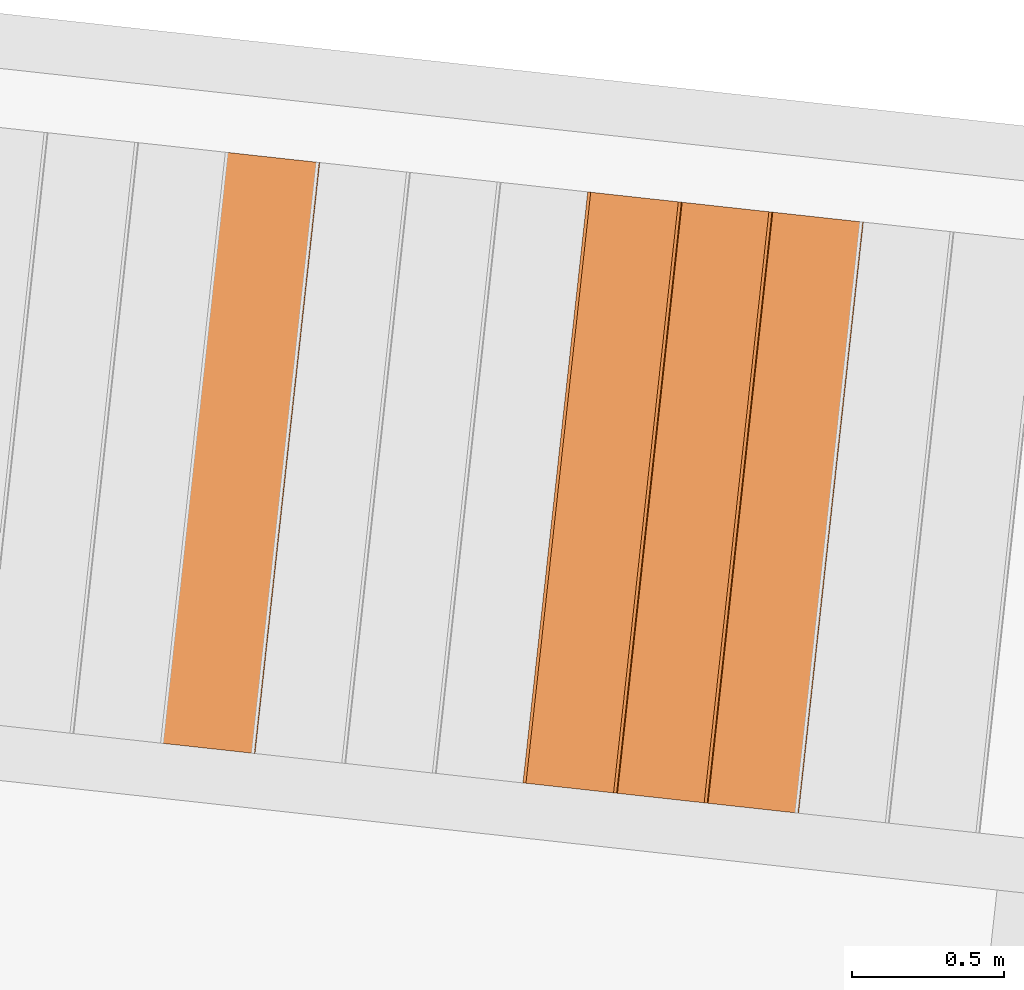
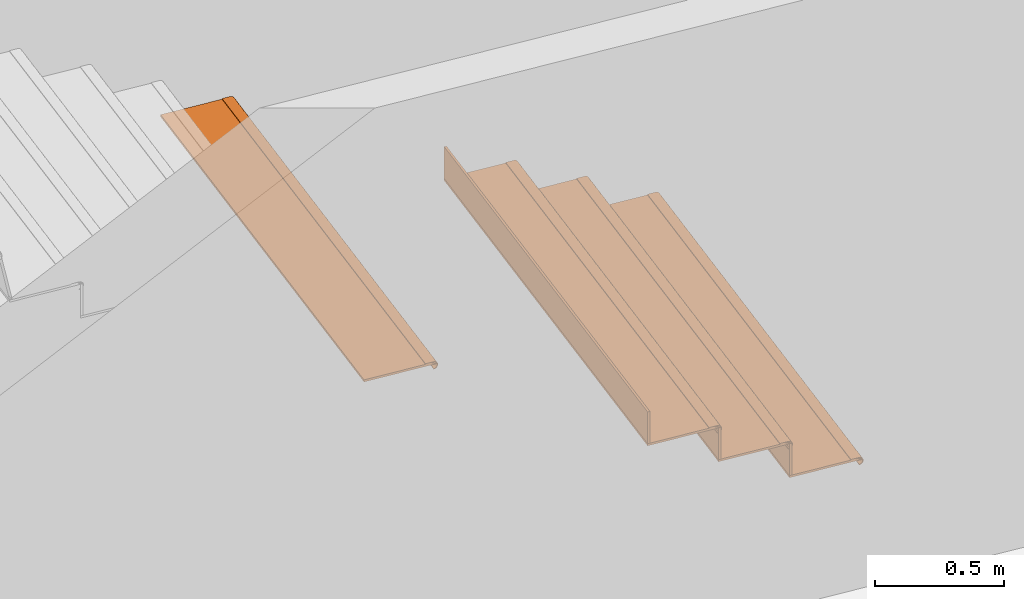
# One storey, part 77 of 79: 7 proxies, 1 element without a shape of its own.
"""IFC2X3 building model written with IfcOpenShell, lengths in metres."""

from ifc_helpers import new_model, entity, si_unit, converted_unit, derived_unit, money_unit, direction, frame, origin_with_axes, place, context, subcontext, project, spatial, faceted_brep, material, type_object, element, aggregate, save


model = new_model("IFC2X3")

# Units and contexts
model_context = context("Model", 3, precision=1e-05, world=origin_with_axes(), true_north=direction((0.0, 1.0)))
body_context = subcontext(model_context, "Body", "Model", "MODEL_VIEW")
ifc_project = project(units=[si_unit("LENGTHUNIT", "METRE"), si_unit("AREAUNIT", "SQUARE_METRE"), si_unit("VOLUMEUNIT", "CUBIC_METRE"), converted_unit("PLANEANGLEUNIT", "DEGREE", entity("IfcPlaneAngleMeasure", 0.0174532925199), si_unit("PLANEANGLEUNIT", "RADIAN"), dimensions=[0, 0, 0, 0, 0, 0, 0]), money_unit("CHF"), converted_unit("TIMEUNIT", "Year", entity("IfcTimeMeasure", 31556926.0), si_unit("TIMEUNIT", "SECOND"), dimensions=[0, 0, 1, 0, 0, 0, 0]), si_unit("MASSUNIT", "GRAM", prefix="KILO"), si_unit("THERMODYNAMICTEMPERATUREUNIT", "DEGREE_CELSIUS"), si_unit("LUMINOUSINTENSITYUNIT", "LUMEN"), si_unit("ENERGYUNIT", "JOULE", prefix="MEGA"), derived_unit("THERMALCONDUCTANCEUNIT", [(si_unit("POWERUNIT", "WATT"), 1), (si_unit("LENGTHUNIT", "METRE"), -1), (si_unit("THERMODYNAMICTEMPERATUREUNIT", "KELVIN"), -1)]), derived_unit("SPECIFICHEATCAPACITYUNIT", [(si_unit("ENERGYUNIT", "JOULE"), 1), (si_unit("MASSUNIT", "GRAM", prefix="KILO"), -1), (si_unit("THERMODYNAMICTEMPERATUREUNIT", "KELVIN"), -1)]), derived_unit("MASSDENSITYUNIT", [(si_unit("MASSUNIT", "GRAM", prefix="KILO"), 1), (si_unit("VOLUMEUNIT", "CUBIC_METRE"), -1)])], contexts=[model_context])

# Site, building, storey
site_placement = place(None, frame((0.0, 0.0, 0.0), z_axis=(0.0, 0.0, 1.0), x_axis=(-0.177771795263, -0.984071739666, 0.0)))
site = spatial("IfcSite", under=ifc_project, at=site_placement, Name="Site", CompositionType="ELEMENT")
building_placement = place(site_placement, origin_with_axes())
building = spatial("IfcBuilding", under=site, at=building_placement, Name="Bâtiment", CompositionType="ELEMENT")
storey_placement = place(building_placement, origin_with_axes())
storey = spatial("IfcBuildingStorey", under=building, at=storey_placement, Name="RDC", CompositionType="ELEMENT", Elevation=0.0)

# Proxies
building_element_proxy_type_1 = type_object("IfcBuildingElementProxyType", Name="Type d'escalier", PredefinedType="NOTDEFINED")
proxy_1_placement = place(storey_placement, origin_with_axes())
proxy_1 = element("IfcBuildingElementProxy", 1, at=proxy_1_placement, inside=storey, type_object=building_element_proxy_type_1, Name="ESC-001")
ifc_material = material(Name="Bois - Massif 01")
building_element_proxy_type_2 = type_object("IfcBuildingElementProxyType", Name="IfcBuildingElementProxy", PredefinedType="NOTDEFINED")
proxy_2_placement = place(proxy_1_placement, frame((98.7238844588, -151.896934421, 0.63), z_axis=(0.0, 0.0, 1.0), x_axis=(0.997579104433, 0.0695408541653, 0.0)))
proxy_2 = element("IfcBuildingElementProxy", 2, at=proxy_2_placement, type_object=building_element_proxy_type_2, material=ifc_material, Name="C-MARCHE-004", context=body_context, shape_type="Brep", body=[
    faceted_brep([(1.00141510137, 0.0, 0.0), (-0.955838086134, 0.0, 0.0), (-0.955838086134, -0.00999999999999, 0.0), (1.00141232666, -0.00999999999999, 0.0), (1.00141510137, 0.0, -0.15), (-0.955838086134, 0.0, -0.15), (-0.955838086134, -0.00999999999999, -0.15), (1.00141232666, -0.00999999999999, -0.15)], [[[0, 1, 2, 3]], [[4, 5, 1, 0]], [[1, 5, 6, 2]], [[3, 2, 6, 7]], [[0, 3, 7, 4]], [[7, 6, 5, 4]]]),
])
proxy_3_placement = place(proxy_1_placement, frame((98.7447467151, -152.196208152, 0.79), z_axis=(0.0, 0.0, 1.0), x_axis=(0.997579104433, 0.0695408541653, 0.0)))
proxy_3 = element("IfcBuildingElementProxy", 3, at=proxy_3_placement, type_object=building_element_proxy_type_2, material=ifc_material, Name="C-MARCHE-005", context=body_context, shape_type="Brep", body=[
    faceted_brep([(1.00133186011, 0.0, 0.0), (-0.955838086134, 0.0, 0.0), (-0.955838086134, -0.01, 0.0), (1.0013290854, -0.00999999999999, 0.0), (1.00133186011, 0.0, -0.15), (-0.955838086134, 0.0, -0.15), (-0.955838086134, -0.01, -0.15), (1.0013290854, -0.00999999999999, -0.15)], [[[0, 1, 2, 3]], [[4, 5, 1, 0]], [[1, 5, 6, 2]], [[3, 2, 6, 7]], [[0, 3, 7, 4]], [[7, 6, 5, 4]]]),
])
proxy_4_placement = place(proxy_1_placement, frame((98.7656089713, -152.495481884, 0.95), z_axis=(0.0, 0.0, 1.0), x_axis=(0.997579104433, 0.0695408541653, 0.0)))
proxy_4 = element("IfcBuildingElementProxy", 4, at=proxy_4_placement, type_object=building_element_proxy_type_2, material=ifc_material, Name="C-MARCHE-006", context=body_context, shape_type="Brep", body=[
    faceted_brep([(1.00124861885, 0.0, 0.0), (-0.955838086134, 0.0, 0.0), (-0.955838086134, -0.00999999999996, 0.0), (1.00124584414, -0.00999999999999, 0.0), (1.00124861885, 0.0, -0.15), (-0.955838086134, 0.0, -0.15), (-0.955838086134, -0.00999999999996, -0.15), (1.00124584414, -0.00999999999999, -0.15)], [[[0, 1, 2, 3]], [[4, 5, 1, 0]], [[1, 5, 6, 2]], [[3, 2, 6, 7]], [[0, 3, 7, 4]], [[7, 6, 5, 4]]]),
])
proxy_5_placement = place(proxy_1_placement, frame((98.7030222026, -151.59766069, 0.48), z_axis=(0.0, 0.0, 1.0), x_axis=(0.997579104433, 0.0695408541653, 0.0)))
proxy_5 = element("IfcBuildingElementProxy", 5, at=proxy_5_placement, type_object=building_element_proxy_type_2, material=ifc_material, Name="MARCHE-003", context=body_context, shape_type="Brep", body=[
    faceted_brep([(1.00149492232, -0.012326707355, -0.00589109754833), (1.00149418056, -0.015, -0.00401923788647), (1.00149286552, -0.0197393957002, -0.00180922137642), (1.00149146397, -0.02479055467, -0.00045576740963), (1.0014900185, -0.03, 0.0), (1.00141232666, -0.309999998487, 0.0), (1.00141232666, -0.309999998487, -0.01), (1.00149834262, 0.0, -0.01), (-0.955838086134, -0.012326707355, -0.00589109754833), (-0.955838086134, -0.015, -0.00401923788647), (-0.955838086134, -0.0197393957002, -0.00180922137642), (-0.955838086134, -0.02479055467, -0.00045576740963), (-0.955838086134, -0.03, 0.0), (-0.955838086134, -0.309999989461, 0.0), (-0.955838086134, -0.309999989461, -0.01), (-0.955838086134, 0.0, -0.01)], [[[0, 1, 2, 3, 4, 5, 6, 7]], [[0, 8, 9, 1]], [[1, 9, 10, 2]], [[2, 10, 11, 3]], [[3, 11, 12, 4]], [[5, 4, 12, 13]], [[13, 14, 6, 5]], [[7, 6, 14, 15]], [[7, 15, 8, 0]], [[12, 11, 10, 9, 8, 15, 14, 13]]]),
    faceted_brep([(-0.955838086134, -0.05, 0.0), (1.00149834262, -0.05, 0.0), (1.00149834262, -0.05, 0.003), (-0.955838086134, -0.05, 0.003), (-0.955838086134, -0.015, 0.0), (1.00149834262, -0.015, 0.0), (1.00149834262, -0.012395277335, -0.00022788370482), (1.00149834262, -0.00986969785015, -0.00090461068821), (1.00149834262, -0.00749999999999, -0.00200961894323), (1.00149834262, -0.0053581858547, -0.00350933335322), (1.00149834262, -0.00350933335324, -0.0053581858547), (1.00149834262, -0.00200961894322, -0.0075), (1.00149834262, -0.000904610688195, -0.00986969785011), (1.00149834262, -0.000227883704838, -0.012395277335), (1.00149834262, 0.0, -0.015), (1.00149834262, -0.000227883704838, -0.017604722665), (1.00149834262, -0.000904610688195, -0.0201303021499), (1.00149834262, -0.00200961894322, -0.0225), (1.00149834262, -0.00350933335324, -0.0246418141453), (1.00149834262, -0.0053581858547, -0.0264906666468), (1.00149834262, -0.00749999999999, -0.0279903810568), (1.00149834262, -0.00986969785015, -0.0290953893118), (1.00149834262, -0.012395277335, -0.0297721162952), (1.00149834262, -0.015, -0.03), (1.00149834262, -0.015, -0.033), (1.00149834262, -0.0118743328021, -0.0327265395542), (1.00149834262, -0.00884363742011, -0.0319144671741), (1.00149834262, -0.006, -0.0305884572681), (1.00149834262, -0.00342982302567, -0.0287887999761), (1.00149834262, -0.0012112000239, -0.0265701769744), (1.00149834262, 0.000588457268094, -0.024), (1.00149834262, 0.00191446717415, -0.0211563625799), (1.00149834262, 0.0027265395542, -0.018125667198), (1.00149834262, 0.00299999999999, -0.015), (1.00149834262, 0.0027265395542, -0.011874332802), (1.00149834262, 0.00191446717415, -0.00884363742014), (1.00149834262, 0.000588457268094, -0.006), (1.00149834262, -0.0012112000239, -0.00342982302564), (1.00149834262, -0.00342982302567, -0.00121120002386), (1.00149834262, -0.006, 0.00058845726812), (1.00149834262, -0.00884363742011, 0.00191446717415), (1.00149834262, -0.0118743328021, 0.00272653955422), (1.00149834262, -0.015, 0.003), (-0.955838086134, -0.015, 0.003), (-0.955838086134, -0.011874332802, 0.00272653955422), (-0.955838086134, -0.00884363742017, 0.00191446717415), (-0.955838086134, -0.00599999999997, 0.00058845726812), (-0.955838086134, -0.00342982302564, -0.00121120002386), (-0.955838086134, -0.00121120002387, -0.00342982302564), (-0.955838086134, 0.000588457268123, -0.006), (-0.955838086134, 0.00191446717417, -0.00884363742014), (-0.955838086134, 0.00272653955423, -0.011874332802), (-0.955838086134, 0.00299999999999, -0.015), (-0.955838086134, 0.00272653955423, -0.018125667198), (-0.955838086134, 0.00191446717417, -0.0211563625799), (-0.955838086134, 0.000588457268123, -0.024), (-0.955838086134, -0.00121120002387, -0.0265701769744), (-0.955838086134, -0.00342982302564, -0.0287887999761), (-0.955838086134, -0.00599999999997, -0.0305884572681), (-0.955838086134, -0.00884363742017, -0.0319144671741), (-0.955838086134, -0.011874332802, -0.0327265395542), (-0.955838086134, -0.015, -0.033), (-0.955838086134, -0.015, -0.03), (-0.955838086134, -0.012395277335, -0.0297721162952), (-0.955838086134, -0.00986969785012, -0.0290953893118), (-0.955838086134, -0.00750000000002, -0.0279903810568), (-0.955838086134, -0.0053581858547, -0.0264906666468), (-0.955838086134, -0.00350933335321, -0.0246418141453), (-0.955838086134, -0.00200961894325, -0.0225), (-0.955838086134, -0.000904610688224, -0.0201303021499), (-0.955838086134, -0.000227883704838, -0.017604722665), (-0.955838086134, 0.0, -0.015), (-0.955838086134, -0.000227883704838, -0.012395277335), (-0.955838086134, -0.000904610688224, -0.00986969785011), (-0.955838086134, -0.00200961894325, -0.0075), (-0.955838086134, -0.00350933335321, -0.0053581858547), (-0.955838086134, -0.0053581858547, -0.00350933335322), (-0.955838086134, -0.00750000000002, -0.00200961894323), (-0.955838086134, -0.00986969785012, -0.00090461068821), (-0.955838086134, -0.012395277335, -0.00022788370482)], [[[0, 1, 2, 3]], [[4, 5, 1, 0]], [[1, 5, 6, 7, 8, 9, 10, 11, 12, 13, 14, 15, 16, 17, 18, 19, 20, 21, 22, 23, 24, 25, 26, 27, 28, 29, 30, 31, 32, 33, 34, 35, 36, 37, 38, 39, 40, 41, 42, 2]], [[3, 2, 42, 43]], [[0, 3, 43, 44, 45, 46, 47, 48, 49, 50, 51, 52, 53, 54, 55, 56, 57, 58, 59, 60, 61, 62, 63, 64, 65, 66, 67, 68, 69, 70, 71, 72, 73, 74, 75, 76, 77, 78, 79, 4]], [[79, 6, 5, 4]], [[78, 7, 6, 79]], [[77, 8, 7, 78]], [[76, 9, 8, 77]], [[75, 10, 9, 76]], [[74, 11, 10, 75]], [[73, 12, 11, 74]], [[72, 13, 12, 73]], [[71, 14, 13, 72]], [[70, 15, 14, 71]], [[69, 16, 15, 70]], [[68, 17, 16, 69]], [[67, 18, 17, 68]], [[66, 19, 18, 67]], [[65, 20, 19, 66]], [[64, 21, 20, 65]], [[63, 22, 21, 64]], [[62, 23, 22, 63]], [[61, 24, 23, 62]], [[60, 25, 24, 61]], [[59, 26, 25, 60]], [[58, 27, 26, 59]], [[57, 28, 27, 58]], [[56, 29, 28, 57]], [[55, 30, 29, 56]], [[54, 31, 30, 55]], [[53, 32, 31, 54]], [[52, 33, 32, 53]], [[51, 34, 33, 52]], [[50, 35, 34, 51]], [[49, 36, 35, 50]], [[48, 37, 36, 49]], [[47, 38, 37, 48]], [[46, 39, 38, 47]], [[45, 40, 39, 46]], [[44, 41, 40, 45]], [[43, 42, 41, 44]]]),
])
proxy_6_placement = place(proxy_1_placement, frame((98.7238844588, -151.896934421, 0.64), z_axis=(0.0, 0.0, 1.0), x_axis=(0.997579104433, 0.0695408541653, 0.0)))
proxy_6 = element("IfcBuildingElementProxy", 6, at=proxy_6_placement, type_object=building_element_proxy_type_2, material=ifc_material, Name="MARCHE-004", context=body_context, shape_type="Brep", body=[
    faceted_brep([(1.00141168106, -0.012326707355, -0.00589109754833), (1.0014109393, -0.015, -0.00401923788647), (1.00140962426, -0.0197393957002, -0.00180922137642), (1.00140822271, -0.02479055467, -0.00045576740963), (1.00140677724, -0.03, 0.0), (1.00139876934, -0.0588603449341, 0.0), (1.00139876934, -0.0588603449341, -0.01), (1.00141510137, 0.0, -0.01), (-0.955838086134, -0.012326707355, -0.00589109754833), (-0.955838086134, -0.015, -0.00401923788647), (-0.955838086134, -0.0197393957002, -0.00180922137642), (-0.955838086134, -0.02479055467, -0.00045576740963), (-0.955838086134, -0.03, 0.0), (-0.955838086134, -0.309999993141, 0.0), (1.0013290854, -0.310000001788, 0.0), (1.0013290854, -0.310000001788, -0.01), (-0.955838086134, -0.309999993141, -0.01), (-0.955838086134, 0.0, -0.01)], [[[0, 1, 2, 3, 4, 5, 6, 7]], [[0, 8, 9, 1]], [[1, 9, 10, 2]], [[2, 10, 11, 3]], [[3, 11, 12, 4]], [[5, 4, 12, 13, 14]], [[14, 15, 6, 5]], [[7, 6, 15, 16, 17]], [[7, 17, 8, 0]], [[12, 11, 10, 9, 8, 17, 16, 13]], [[13, 16, 15, 14]]]),
    faceted_brep([(-0.955838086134, -0.05, 0.0), (1.00141510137, -0.05, 0.0), (1.00141510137, -0.05, 0.003), (-0.955838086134, -0.05, 0.003), (-0.955838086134, -0.015, 0.0), (1.00141510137, -0.015, 0.0), (1.00141510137, -0.012395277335, -0.00022788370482), (1.00141510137, -0.00986969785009, -0.00090461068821), (1.00141510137, -0.00749999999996, -0.00200961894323), (1.00141510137, -0.00535818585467, -0.00350933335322), (1.00141510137, -0.00350933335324, -0.0053581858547), (1.00141510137, -0.00200961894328, -0.0075), (1.00141510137, -0.000904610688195, -0.00986969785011), (1.00141510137, -0.000227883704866, -0.012395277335), (1.00141510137, 0.0, -0.015), (1.00141510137, -0.000227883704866, -0.017604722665), (1.00141510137, -0.000904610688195, -0.0201303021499), (1.00141510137, -0.00200961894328, -0.0225), (1.00141510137, -0.00350933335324, -0.0246418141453), (1.00141510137, -0.00535818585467, -0.0264906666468), (1.00141510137, -0.00749999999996, -0.0279903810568), (1.00141510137, -0.00986969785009, -0.0290953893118), (1.00141510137, -0.012395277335, -0.0297721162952), (1.00141510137, -0.015, -0.03), (1.00141510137, -0.015, -0.033), (1.00141510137, -0.011874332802, -0.0327265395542), (1.00141510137, -0.00884363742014, -0.0319144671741), (1.00141510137, -0.006, -0.0305884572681), (1.00141510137, -0.00342982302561, -0.0287887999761), (1.00141510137, -0.00121120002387, -0.0265701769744), (1.00141510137, 0.000588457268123, -0.024), (1.00141510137, 0.00191446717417, -0.0211563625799), (1.00141510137, 0.0027265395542, -0.018125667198), (1.00141510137, 0.00299999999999, -0.015), (1.00141510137, 0.0027265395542, -0.011874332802), (1.00141510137, 0.00191446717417, -0.00884363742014), (1.00141510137, 0.000588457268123, -0.006), (1.00141510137, -0.00121120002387, -0.00342982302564), (1.00141510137, -0.00342982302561, -0.00121120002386), (1.00141510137, -0.006, 0.00058845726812), (1.00141510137, -0.00884363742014, 0.00191446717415), (1.00141510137, -0.011874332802, 0.00272653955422), (1.00141510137, -0.015, 0.003), (-0.955838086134, -0.015, 0.003), (-0.955838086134, -0.011874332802, 0.00272653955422), (-0.955838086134, -0.00884363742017, 0.00191446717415), (-0.955838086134, -0.00600000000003, 0.00058845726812), (-0.955838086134, -0.00342982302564, -0.00121120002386), (-0.955838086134, -0.00121120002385, -0.00342982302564), (-0.955838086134, 0.000588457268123, -0.006), (-0.955838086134, 0.00191446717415, -0.00884363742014), (-0.955838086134, 0.0027265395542, -0.011874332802), (-0.955838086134, 0.00300000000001, -0.015), (-0.955838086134, 0.0027265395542, -0.018125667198), (-0.955838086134, 0.00191446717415, -0.0211563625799), (-0.955838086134, 0.000588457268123, -0.024), (-0.955838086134, -0.00121120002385, -0.0265701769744), (-0.955838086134, -0.00342982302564, -0.0287887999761), (-0.955838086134, -0.00600000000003, -0.0305884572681), (-0.955838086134, -0.00884363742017, -0.0319144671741), (-0.955838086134, -0.011874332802, -0.0327265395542), (-0.955838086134, -0.015, -0.033), (-0.955838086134, -0.015, -0.03), (-0.955838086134, -0.012395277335, -0.0297721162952), (-0.955838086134, -0.00986969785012, -0.0290953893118), (-0.955838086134, -0.00749999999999, -0.0279903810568), (-0.955838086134, -0.0053581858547, -0.0264906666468), (-0.955838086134, -0.00350933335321, -0.0246418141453), (-0.955838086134, -0.00200961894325, -0.0225), (-0.955838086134, -0.000904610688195, -0.0201303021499), (-0.955838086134, -0.00022788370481, -0.017604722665), (-0.955838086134, 0.0, -0.015), (-0.955838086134, -0.00022788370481, -0.012395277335), (-0.955838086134, -0.000904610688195, -0.00986969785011), (-0.955838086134, -0.00200961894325, -0.0075), (-0.955838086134, -0.00350933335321, -0.0053581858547), (-0.955838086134, -0.0053581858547, -0.00350933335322), (-0.955838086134, -0.00749999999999, -0.00200961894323), (-0.955838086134, -0.00986969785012, -0.00090461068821), (-0.955838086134, -0.012395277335, -0.00022788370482)], [[[0, 1, 2, 3]], [[4, 5, 1, 0]], [[1, 5, 6, 7, 8, 9, 10, 11, 12, 13, 14, 15, 16, 17, 18, 19, 20, 21, 22, 23, 24, 25, 26, 27, 28, 29, 30, 31, 32, 33, 34, 35, 36, 37, 38, 39, 40, 41, 42, 2]], [[3, 2, 42, 43]], [[0, 3, 43, 44, 45, 46, 47, 48, 49, 50, 51, 52, 53, 54, 55, 56, 57, 58, 59, 60, 61, 62, 63, 64, 65, 66, 67, 68, 69, 70, 71, 72, 73, 74, 75, 76, 77, 78, 79, 4]], [[79, 6, 5, 4]], [[78, 7, 6, 79]], [[77, 8, 7, 78]], [[76, 9, 8, 77]], [[75, 10, 9, 76]], [[74, 11, 10, 75]], [[73, 12, 11, 74]], [[72, 13, 12, 73]], [[71, 14, 13, 72]], [[70, 15, 14, 71]], [[69, 16, 15, 70]], [[68, 17, 16, 69]], [[67, 18, 17, 68]], [[66, 19, 18, 67]], [[65, 20, 19, 66]], [[64, 21, 20, 65]], [[63, 22, 21, 64]], [[62, 23, 22, 63]], [[61, 24, 23, 62]], [[60, 25, 24, 61]], [[59, 26, 25, 60]], [[58, 27, 26, 59]], [[57, 28, 27, 58]], [[56, 29, 28, 57]], [[55, 30, 29, 56]], [[54, 31, 30, 55]], [[53, 32, 31, 54]], [[52, 33, 32, 53]], [[51, 34, 33, 52]], [[50, 35, 34, 51]], [[49, 36, 35, 50]], [[48, 37, 36, 49]], [[47, 38, 37, 48]], [[46, 39, 38, 47]], [[45, 40, 39, 46]], [[44, 41, 40, 45]], [[43, 42, 41, 44]]]),
])
proxy_7_placement = place(proxy_1_placement, frame((98.7447467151, -152.196208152, 0.8), z_axis=(0.0, 0.0, 1.0), x_axis=(0.997579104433, 0.0695408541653, 0.0)))
proxy_7 = element("IfcBuildingElementProxy", 7, at=proxy_7_placement, type_object=building_element_proxy_type_2, material=ifc_material, Name="MARCHE-005", context=body_context, shape_type="Brep", body=[
    faceted_brep([(1.00132843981, -0.012326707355, -0.00589109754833), (1.00132769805, -0.015, -0.00401923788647), (1.001326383, -0.0197393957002, -0.00180922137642), (1.00132498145, -0.02479055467, -0.00045576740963), (1.00132353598, -0.03, 0.0), (1.00124584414, -0.310000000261, 0.0), (1.00124584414, -0.310000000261, -0.01), (1.00133186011, 0.0, -0.01), (-0.955838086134, -0.012326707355, -0.00589109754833), (-0.955838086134, -0.015, -0.00401923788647), (-0.955838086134, -0.0197393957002, -0.00180922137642), (-0.955838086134, -0.02479055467, -0.00045576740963), (-0.955838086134, -0.03, 0.0), (-0.955838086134, -0.309999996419, 0.0), (-0.955838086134, -0.309999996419, -0.01), (-0.955838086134, 0.0, -0.01)], [[[0, 1, 2, 3, 4, 5, 6, 7]], [[0, 8, 9, 1]], [[1, 9, 10, 2]], [[2, 10, 11, 3]], [[3, 11, 12, 4]], [[5, 4, 12, 13]], [[13, 14, 6, 5]], [[7, 6, 14, 15]], [[7, 15, 8, 0]], [[12, 11, 10, 9, 8, 15, 14, 13]]]),
    faceted_brep([(-0.955838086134, -0.05, 0.0), (1.00133186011, -0.05, 0.0), (1.00133186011, -0.05, 0.003), (-0.955838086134, -0.05, 0.003), (-0.955838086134, -0.015, 0.0), (1.00133186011, -0.015, 0.0), (1.00133186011, -0.012395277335, -0.00022788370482), (1.00133186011, -0.00986969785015, -0.00090461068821), (1.00133186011, -0.00749999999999, -0.00200961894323), (1.00133186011, -0.0053581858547, -0.00350933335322), (1.00133186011, -0.00350933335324, -0.0053581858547), (1.00133186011, -0.00200961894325, -0.0075), (1.00133186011, -0.000904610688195, -0.00986969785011), (1.00133186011, -0.000227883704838, -0.012395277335), (1.00133186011, 0.0, -0.015), (1.00133186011, -0.000227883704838, -0.017604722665), (1.00133186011, -0.000904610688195, -0.0201303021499), (1.00133186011, -0.00200961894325, -0.0225), (1.00133186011, -0.00350933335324, -0.0246418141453), (1.00133186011, -0.0053581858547, -0.0264906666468), (1.00133186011, -0.00749999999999, -0.0279903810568), (1.00133186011, -0.00986969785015, -0.0290953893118), (1.00133186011, -0.012395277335, -0.0297721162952), (1.00133186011, -0.015, -0.03), (1.00133186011, -0.015, -0.033), (1.00133186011, -0.011874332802, -0.0327265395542), (1.00133186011, -0.00884363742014, -0.0319144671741), (1.00133186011, -0.00600000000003, -0.0305884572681), (1.00133186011, -0.00342982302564, -0.0287887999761), (1.00133186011, -0.00121120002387, -0.0265701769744), (1.00133186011, 0.000588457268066, -0.024), (1.00133186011, 0.00191446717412, -0.0211563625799), (1.00133186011, 0.0027265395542, -0.018125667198), (1.00133186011, 0.00300000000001, -0.015), (1.00133186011, 0.0027265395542, -0.011874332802), (1.00133186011, 0.00191446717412, -0.00884363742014), (1.00133186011, 0.000588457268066, -0.006), (1.00133186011, -0.00121120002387, -0.00342982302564), (1.00133186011, -0.00342982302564, -0.00121120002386), (1.00133186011, -0.00600000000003, 0.00058845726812), (1.00133186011, -0.00884363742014, 0.00191446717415), (1.00133186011, -0.011874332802, 0.00272653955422), (1.00133186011, -0.015, 0.003), (-0.955838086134, -0.015, 0.003), (-0.955838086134, -0.011874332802, 0.00272653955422), (-0.955838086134, -0.00884363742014, 0.00191446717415), (-0.955838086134, -0.00600000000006, 0.00058845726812), (-0.955838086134, -0.00342982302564, -0.00121120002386), (-0.955838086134, -0.00121120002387, -0.00342982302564), (-0.955838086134, 0.000588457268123, -0.006), (-0.955838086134, 0.00191446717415, -0.00884363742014), (-0.955838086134, 0.00272653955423, -0.011874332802), (-0.955838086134, 0.00299999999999, -0.015), (-0.955838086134, 0.00272653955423, -0.018125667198), (-0.955838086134, 0.00191446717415, -0.0211563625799), (-0.955838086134, 0.000588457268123, -0.024), (-0.955838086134, -0.00121120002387, -0.0265701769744), (-0.955838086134, -0.00342982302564, -0.0287887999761), (-0.955838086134, -0.00600000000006, -0.0305884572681), (-0.955838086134, -0.00884363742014, -0.0319144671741), (-0.955838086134, -0.011874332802, -0.0327265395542), (-0.955838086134, -0.015, -0.033), (-0.955838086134, -0.015, -0.03), (-0.955838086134, -0.012395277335, -0.0297721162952), (-0.955838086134, -0.00986969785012, -0.0290953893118), (-0.955838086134, -0.00749999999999, -0.0279903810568), (-0.955838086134, -0.00535818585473, -0.0264906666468), (-0.955838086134, -0.00350933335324, -0.0246418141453), (-0.955838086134, -0.00200961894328, -0.0225), (-0.955838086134, -0.000904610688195, -0.0201303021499), (-0.955838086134, -0.000227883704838, -0.017604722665), (-0.955838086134, 0.0, -0.015), (-0.955838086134, -0.000227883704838, -0.012395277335), (-0.955838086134, -0.000904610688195, -0.00986969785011), (-0.955838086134, -0.00200961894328, -0.0075), (-0.955838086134, -0.00350933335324, -0.0053581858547), (-0.955838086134, -0.00535818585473, -0.00350933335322), (-0.955838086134, -0.00749999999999, -0.00200961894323), (-0.955838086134, -0.00986969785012, -0.00090461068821), (-0.955838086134, -0.012395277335, -0.00022788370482)], [[[0, 1, 2, 3]], [[4, 5, 1, 0]], [[1, 5, 6, 7, 8, 9, 10, 11, 12, 13, 14, 15, 16, 17, 18, 19, 20, 21, 22, 23, 24, 25, 26, 27, 28, 29, 30, 31, 32, 33, 34, 35, 36, 37, 38, 39, 40, 41, 42, 2]], [[3, 2, 42, 43]], [[0, 3, 43, 44, 45, 46, 47, 48, 49, 50, 51, 52, 53, 54, 55, 56, 57, 58, 59, 60, 61, 62, 63, 64, 65, 66, 67, 68, 69, 70, 71, 72, 73, 74, 75, 76, 77, 78, 79, 4]], [[79, 6, 5, 4]], [[78, 7, 6, 79]], [[77, 8, 7, 78]], [[76, 9, 8, 77]], [[75, 10, 9, 76]], [[74, 11, 10, 75]], [[73, 12, 11, 74]], [[72, 13, 12, 73]], [[71, 14, 13, 72]], [[70, 15, 14, 71]], [[69, 16, 15, 70]], [[68, 17, 16, 69]], [[67, 18, 17, 68]], [[66, 19, 18, 67]], [[65, 20, 19, 66]], [[64, 21, 20, 65]], [[63, 22, 21, 64]], [[62, 23, 22, 63]], [[61, 24, 23, 62]], [[60, 25, 24, 61]], [[59, 26, 25, 60]], [[58, 27, 26, 59]], [[57, 28, 27, 58]], [[56, 29, 28, 57]], [[55, 30, 29, 56]], [[54, 31, 30, 55]], [[53, 32, 31, 54]], [[52, 33, 32, 53]], [[51, 34, 33, 52]], [[50, 35, 34, 51]], [[49, 36, 35, 50]], [[48, 37, 36, 49]], [[47, 38, 37, 48]], [[46, 39, 38, 47]], [[45, 40, 39, 46]], [[44, 41, 40, 45]], [[43, 42, 41, 44]]]),
])
proxy_8_placement = place(proxy_1_placement, frame((98.8281957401, -153.393303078, 1.44), z_axis=(0.0, 0.0, 1.0), x_axis=(0.997579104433, 0.0695408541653, 0.0)))
proxy_8 = element("IfcBuildingElementProxy", 8, at=proxy_8_placement, type_object=building_element_proxy_type_2, material=ifc_material, Name="MARCHE-009", context=body_context, shape_type="Brep", body=[
    faceted_brep([(1.00099547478, -0.012326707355, -0.00589109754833), (1.00099473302, -0.015, -0.00401923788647), (1.00099341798, -0.0197393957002, -0.00180922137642), (1.00099201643, -0.02479055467, -0.00045576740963), (1.00099057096, -0.03, 0.0), (1.00091287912, -0.309999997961, 0.0), (1.00091287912, -0.309999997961, -0.01), (1.00099889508, 0.0, -0.01), (-0.955838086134, -0.012326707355, -0.00589109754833), (-0.955838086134, -0.015, -0.00401923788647), (-0.955838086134, -0.0197393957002, -0.00180922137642), (-0.955838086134, -0.02479055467, -0.00045576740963), (-0.955838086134, -0.03, 0.0), (-0.955838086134, -0.310000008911, 0.0), (-0.955838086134, -0.310000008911, -0.01), (-0.955838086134, 0.0, -0.01)], [[[0, 1, 2, 3, 4, 5, 6, 7]], [[0, 8, 9, 1]], [[1, 9, 10, 2]], [[2, 10, 11, 3]], [[3, 11, 12, 4]], [[5, 4, 12, 13]], [[13, 14, 6, 5]], [[7, 6, 14, 15]], [[7, 15, 8, 0]], [[12, 11, 10, 9, 8, 15, 14, 13]]]),
    faceted_brep([(-0.955838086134, -0.05, 0.0), (1.00099889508, -0.05, 0.0), (1.00099889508, -0.05, 0.003), (-0.955838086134, -0.05, 0.003), (-0.955838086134, -0.015, 0.0), (1.00099889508, -0.015, 0.0), (1.00099889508, -0.012395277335, -0.00022788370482), (1.00099889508, -0.00986969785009, -0.00090461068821), (1.00099889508, -0.00749999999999, -0.00200961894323), (1.00099889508, -0.00535818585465, -0.00350933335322), (1.00099889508, -0.00350933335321, -0.0053581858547), (1.00099889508, -0.00200961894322, -0.0075), (1.00099889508, -0.000904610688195, -0.00986969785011), (1.00099889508, -0.00022788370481, -0.012395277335), (1.00099889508, 0.0, -0.015), (1.00099889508, -0.00022788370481, -0.017604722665), (1.00099889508, -0.000904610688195, -0.0201303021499), (1.00099889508, -0.00200961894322, -0.0225), (1.00099889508, -0.00350933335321, -0.0246418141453), (1.00099889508, -0.00535818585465, -0.0264906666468), (1.00099889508, -0.00749999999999, -0.0279903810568), (1.00099889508, -0.00986969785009, -0.0290953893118), (1.00099889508, -0.012395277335, -0.0297721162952), (1.00099889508, -0.015, -0.03), (1.00099889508, -0.015, -0.033), (1.00099889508, -0.011874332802, -0.0327265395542), (1.00099889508, -0.00884363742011, -0.0319144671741), (1.00099889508, -0.00599999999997, -0.0305884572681), (1.00099889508, -0.00342982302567, -0.0287887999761), (1.00099889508, -0.00121120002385, -0.0265701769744), (1.00099889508, 0.000588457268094, -0.024), (1.00099889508, 0.00191446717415, -0.0211563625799), (1.00099889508, 0.0027265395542, -0.018125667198), (1.00099889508, 0.00299999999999, -0.015), (1.00099889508, 0.0027265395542, -0.011874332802), (1.00099889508, 0.00191446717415, -0.00884363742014), (1.00099889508, 0.000588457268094, -0.006), (1.00099889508, -0.00121120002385, -0.00342982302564), (1.00099889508, -0.00342982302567, -0.00121120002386), (1.00099889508, -0.00599999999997, 0.00058845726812), (1.00099889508, -0.00884363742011, 0.00191446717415), (1.00099889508, -0.011874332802, 0.00272653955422), (1.00099889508, -0.015, 0.003), (-0.955838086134, -0.015, 0.003), (-0.955838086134, -0.011874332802, 0.00272653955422), (-0.955838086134, -0.00884363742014, 0.00191446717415), (-0.955838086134, -0.00600000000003, 0.00058845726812), (-0.955838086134, -0.00342982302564, -0.00121120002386), (-0.955838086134, -0.00121120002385, -0.00342982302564), (-0.955838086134, 0.000588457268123, -0.006), (-0.955838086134, 0.00191446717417, -0.00884363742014), (-0.955838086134, 0.00272653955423, -0.011874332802), (-0.955838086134, 0.00299999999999, -0.015), (-0.955838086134, 0.00272653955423, -0.018125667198), (-0.955838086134, 0.00191446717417, -0.0211563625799), (-0.955838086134, 0.000588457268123, -0.024), (-0.955838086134, -0.00121120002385, -0.0265701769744), (-0.955838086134, -0.00342982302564, -0.0287887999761), (-0.955838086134, -0.00600000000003, -0.0305884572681), (-0.955838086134, -0.00884363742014, -0.0319144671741), (-0.955838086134, -0.011874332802, -0.0327265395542), (-0.955838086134, -0.015, -0.033), (-0.955838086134, -0.015, -0.03), (-0.955838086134, -0.012395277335, -0.0297721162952), (-0.955838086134, -0.00986969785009, -0.0290953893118), (-0.955838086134, -0.00749999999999, -0.0279903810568), (-0.955838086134, -0.00535818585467, -0.0264906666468), (-0.955838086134, -0.00350933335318, -0.0246418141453), (-0.955838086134, -0.00200961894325, -0.0225), (-0.955838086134, -0.000904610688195, -0.0201303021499), (-0.955838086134, -0.000227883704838, -0.017604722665), (-0.955838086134, 0.0, -0.015), (-0.955838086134, -0.000227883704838, -0.012395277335), (-0.955838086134, -0.000904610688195, -0.00986969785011), (-0.955838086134, -0.00200961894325, -0.0075), (-0.955838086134, -0.00350933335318, -0.0053581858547), (-0.955838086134, -0.00535818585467, -0.00350933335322), (-0.955838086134, -0.00749999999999, -0.00200961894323), (-0.955838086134, -0.00986969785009, -0.00090461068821), (-0.955838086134, -0.012395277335, -0.00022788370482)], [[[0, 1, 2, 3]], [[4, 5, 1, 0]], [[1, 5, 6, 7, 8, 9, 10, 11, 12, 13, 14, 15, 16, 17, 18, 19, 20, 21, 22, 23, 24, 25, 26, 27, 28, 29, 30, 31, 32, 33, 34, 35, 36, 37, 38, 39, 40, 41, 42, 2]], [[3, 2, 42, 43]], [[0, 3, 43, 44, 45, 46, 47, 48, 49, 50, 51, 52, 53, 54, 55, 56, 57, 58, 59, 60, 61, 62, 63, 64, 65, 66, 67, 68, 69, 70, 71, 72, 73, 74, 75, 76, 77, 78, 79, 4]], [[79, 6, 5, 4]], [[78, 7, 6, 79]], [[77, 8, 7, 78]], [[76, 9, 8, 77]], [[75, 10, 9, 76]], [[74, 11, 10, 75]], [[73, 12, 11, 74]], [[72, 13, 12, 73]], [[71, 14, 13, 72]], [[70, 15, 14, 71]], [[69, 16, 15, 70]], [[68, 17, 16, 69]], [[67, 18, 17, 68]], [[66, 19, 18, 67]], [[65, 20, 19, 66]], [[64, 21, 20, 65]], [[63, 22, 21, 64]], [[62, 23, 22, 63]], [[61, 24, 23, 62]], [[60, 25, 24, 61]], [[59, 26, 25, 60]], [[58, 27, 26, 59]], [[57, 28, 27, 58]], [[56, 29, 28, 57]], [[55, 30, 29, 56]], [[54, 31, 30, 55]], [[53, 32, 31, 54]], [[52, 33, 32, 53]], [[51, 34, 33, 52]], [[50, 35, 34, 51]], [[49, 36, 35, 50]], [[48, 37, 36, 49]], [[47, 38, 37, 48]], [[46, 39, 38, 47]], [[45, 40, 39, 46]], [[44, 41, 40, 45]], [[43, 42, 41, 44]]]),
])
aggregate(proxy_1, [proxy_2, proxy_3, proxy_4, proxy_5, proxy_6, proxy_7, proxy_8])

save(model, "model.ifc")
